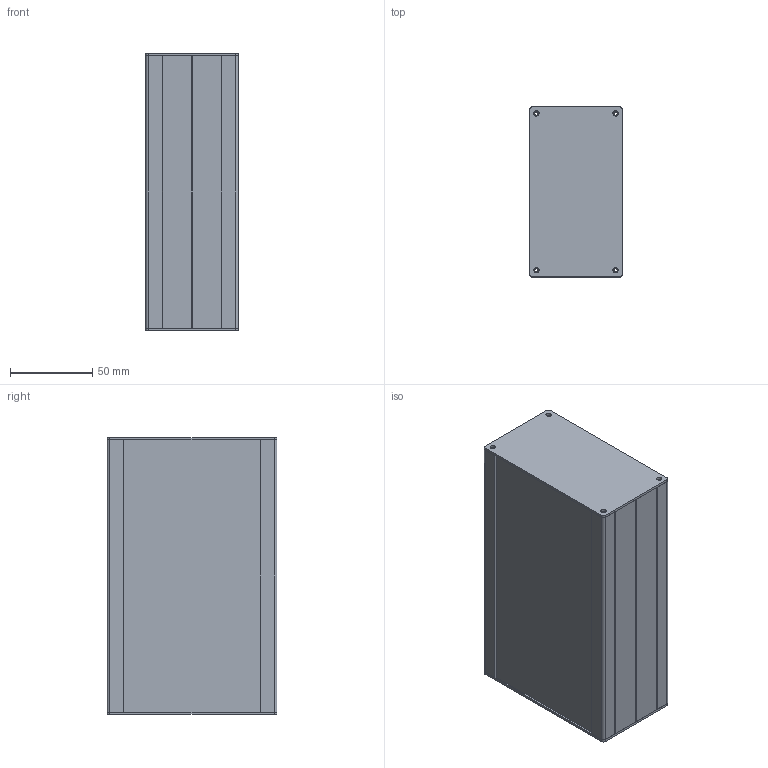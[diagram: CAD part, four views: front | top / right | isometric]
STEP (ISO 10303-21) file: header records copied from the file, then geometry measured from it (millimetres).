
FILE_DESCRIPTION (( 'STEP AP214' ), '1' );
FILE_NAME ('SP56.STEP', '2019-05-29T08:32:53', ( '' ), ( '' ), 'SwSTEP 2.0', 'SolidWorks 2017', '' );
FILE_SCHEMA (( 'AUTOMOTIVE_DESIGN' ));
Length unit declared in the file: millimetre
Products named in the file (4): Sp56_frontteil; Sp42_deckelteil; Sp56_Seitenteil; SP56
Assembly tree (6 placements, depth 2):
  SP56
    Sp56_Seitenteil  x2
    Sp42_deckelteil  x2
    Sp56_frontteil  x2
Bounding box: 56 x 103 x 168 mm (x, y, z)
Volume: 119936.8 mm3; surface area: 164195.9 mm2
Topology: 6 solids, 6 shells, 294 faces, 846 edges, 564 vertices
Faces by surface type: plane 258, cylinder 36
Full cylindrical faces by diameter (mm): 3.2 x8
Entity records: 4927 total; most frequent: CARTESIAN_POINT 857, ORIENTED_EDGE 838, DIRECTION 767, EDGE_CURVE 419, LINE 383, VECTOR 383, VERTEX_POINT 282, AXIS2_PLACEMENT_3D 192
